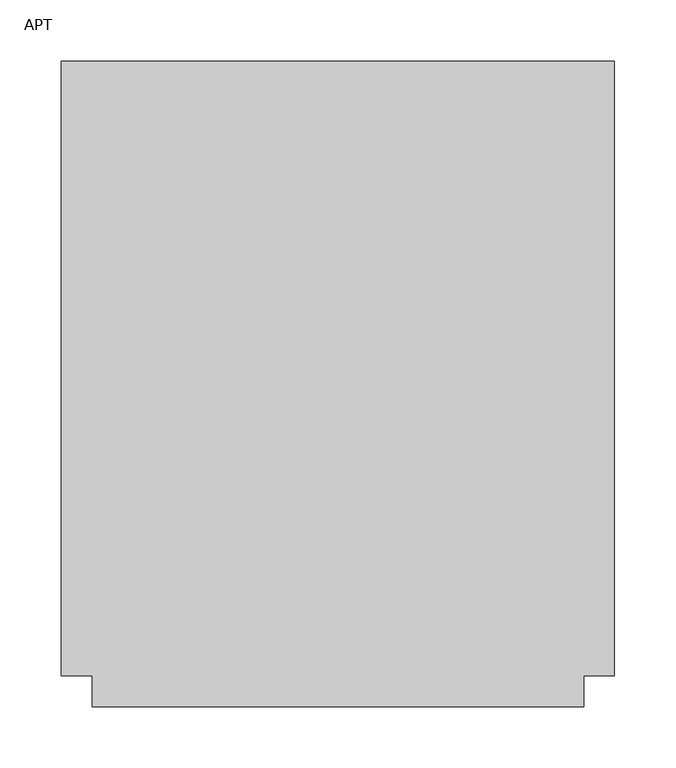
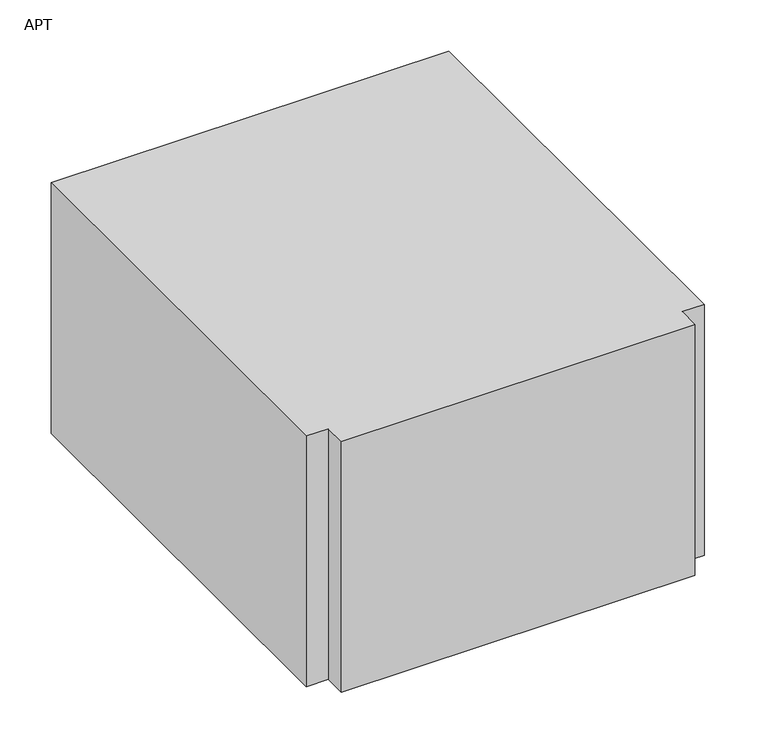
"""IFC4 building model written with IfcOpenShell, lengths in millimetres: duct fitting geometry, M_Te rectangular : APT."""

from ifc_helpers import new_model, si_unit, frame, origin, place, context, project, spatial, polyline, outline, extrude, source, transform, mapped, element, save


def apt_0aab174b(model_context):
    return source(origin(), model_context, "Body", "SweptSolid", [
        extrude(outline(polyline([(-225.0, -250.0), (-225.0, 250.0), (225.0, 250.0), (225.0, -250.0), (200.0, -250.0), (200.0, -275.0), (-200.0, -275.0), (-200.0, -250.0), (-225.0, -250.0)])), frame((0.0, 0.0, -150.0), z_axis=(0.0, 0.0, 1.0), x_axis=(1.0, 0.0, 0.0)), (0.0, 0.0, 1.0), 300.0),
    ])


if __name__ == "__main__":
    model = new_model("IFC4")
    model_context = context("Model", 3, world=origin())
    ifc_project = project(units=[si_unit("LENGTHUNIT", "METRE", prefix="MILLI")], contexts=[model_context])
    site = spatial("IfcSite", under=ifc_project)
    building = spatial("IfcBuilding", under=site)
    placement = place(None, origin())
    apt_shape = apt_0aab174b(model_context)
    element("IfcDuctFitting", 1, ObjectType="M_Te rectangular : APT", at=placement, inside=building, context=model_context, shape_type="MappedRepresentation", body=[
        mapped(apt_shape, transform((0.0, 0.0, 0.0), x_axis=(1.0, 0.0, 0.0), y_axis=(0.0, 1.0, 0.0), z_axis=(0.0, 0.0, 1.0))),
    ])
    save(model, "model.ifc")
